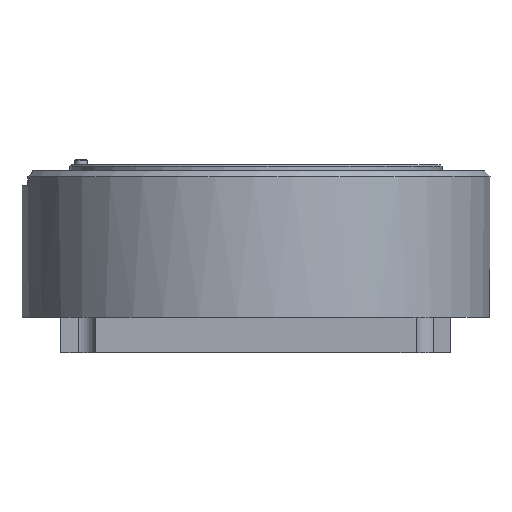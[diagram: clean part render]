
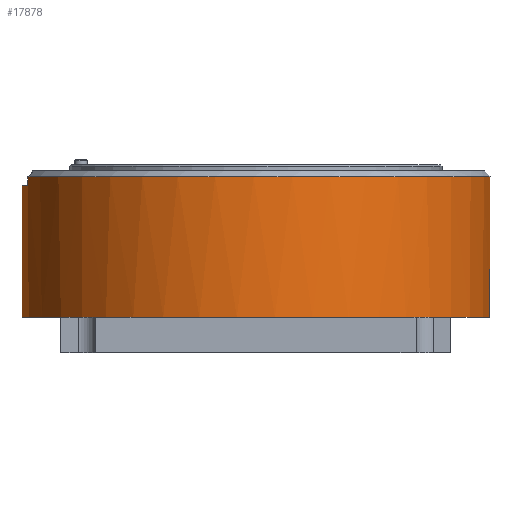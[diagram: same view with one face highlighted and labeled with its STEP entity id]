
A CAD part, front view. The second image highlights one B-rep face of the part: STEP entity #17878.
In plain terms, the highlighted cylindrical face has radius 40 mm (diameter 80 mm), a full revolution.
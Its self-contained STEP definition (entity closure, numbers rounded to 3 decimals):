
#745 = CIRCLE ( 'NONE', #3639, 40. ) ;
#926 = VERTEX_POINT ( 'NONE', #4344 ) ;
#1036 = DIRECTION ( 'NONE',  ( 0., 0., -1. ) ) ;
#1301 = VERTEX_POINT ( 'NONE', #16245 ) ;
#1374 = AXIS2_PLACEMENT_3D ( 'NONE', #25631, #16955, #14673 ) ;
#1781 = AXIS2_PLACEMENT_3D ( 'NONE', #18700, #16476, #27837 ) ;
#2008 = CARTESIAN_POINT ( 'NONE',  ( 38.855, -9.502, 28.476 ) ) ;
#2104 = ORIENTED_EDGE ( 'NONE', *, *, #4818, .F. ) ;
#2291 = ORIENTED_EDGE ( 'NONE', *, *, #6375, .F. ) ;
#2597 = CARTESIAN_POINT ( 'NONE',  ( -33.25, 22.236, 6. ) ) ;
#2922 = CARTESIAN_POINT ( 'NONE',  ( 0., 0., 6. ) ) ;
#3109 = EDGE_LOOP ( 'NONE', ( #6749, #9817, #16695, #21464 ) ) ;
#3447 = DIRECTION ( 'NONE',  ( 0., 0., -1. ) ) ;
#3639 = AXIS2_PLACEMENT_3D ( 'NONE', #2922, #18917, #28064 ) ;
#3838 = EDGE_CURVE ( 'NONE', #10904, #4276, #4189, .T. ) ;
#3942 = ORIENTED_EDGE ( 'NONE', *, *, #18913, .F. ) ;
#4189 = CIRCLE ( 'NONE', #1781, 40. ) ;
#4276 = VERTEX_POINT ( 'NONE', #21935 ) ;
#4344 = CARTESIAN_POINT ( 'NONE',  ( -33.25, -22.236, 6. ) ) ;
#4707 = DIRECTION ( 'NONE',  ( -1., 0., 0. ) ) ;
#4818 = EDGE_CURVE ( 'NONE', #926, #21718, #24495, .T. ) ;
#4828 = AXIS2_PLACEMENT_3D ( 'NONE', #29636, #26946, #15843 ) ;
#5453 = VERTEX_POINT ( 'NONE', #2008 ) ;
#5612 = FACE_OUTER_BOUND ( 'NONE', #3109, .T. ) ;
#5617 = CIRCLE ( 'NONE', #18625, 40. ) ;
#5651 = ORIENTED_EDGE ( 'NONE', *, *, #11163, .F. ) ;
#6375 = EDGE_CURVE ( 'NONE', #29778, #9171, #11601, .T. ) ;
#6533 = EDGE_CURVE ( 'NONE', #9171, #25059, #7251, .T. ) ;
#6580 = AXIS2_PLACEMENT_3D ( 'NONE', #28602, #1036, #24128 ) ;
#6749 = ORIENTED_EDGE ( 'NONE', *, *, #19145, .F. ) ;
#6960 = DIRECTION ( 'NONE',  ( 1., 0., 0. ) ) ;
#7251 = CIRCLE ( 'NONE', #4828, 40. ) ;
#7543 = DIRECTION ( 'NONE',  ( 0., 0., -1. ) ) ;
#7775 = LINE ( 'NONE', #18940, #23280 ) ;
#8206 = DIRECTION ( 'NONE',  ( -1., 0., 0. ) ) ;
#8341 = FACE_OUTER_BOUND ( 'NONE', #24953, .T. ) ;
#8842 = CARTESIAN_POINT ( 'NONE',  ( -15.794, -36.75, 6. ) ) ;
#9171 = VERTEX_POINT ( 'NONE', #25964 ) ;
#9369 = AXIS2_PLACEMENT_3D ( 'NONE', #10399, #7543, #10263 ) ;
#9783 = LINE ( 'NONE', #21229, #26241 ) ;
#9817 = ORIENTED_EDGE ( 'NONE', *, *, #28878, .T. ) ;
#10146 = AXIS2_PLACEMENT_3D ( 'NONE', #14167, #16085, #29570 ) ;
#10161 = CYLINDRICAL_SURFACE ( 'NONE', #21175, 40. ) ;
#10190 = CARTESIAN_POINT ( 'NONE',  ( 38.855, -9.502, 29.965 ) ) ;
#10214 = ORIENTED_EDGE ( 'NONE', *, *, #25271, .F. ) ;
#10263 = DIRECTION ( 'NONE',  ( -1., 0., 0. ) ) ;
#10399 = CARTESIAN_POINT ( 'NONE',  ( 0., 0., 6. ) ) ;
#10904 = VERTEX_POINT ( 'NONE', #10190 ) ;
#11163 = EDGE_CURVE ( 'NONE', #11318, #29778, #5617, .T. ) ;
#11318 = VERTEX_POINT ( 'NONE', #15690 ) ;
#11601 = CIRCLE ( 'NONE', #10146, 40. ) ;
#12262 = CIRCLE ( 'NONE', #9369, 40. ) ;
#12424 = CARTESIAN_POINT ( 'NONE',  ( 38.855, 9.502, 28.476 ) ) ;
#14167 = CARTESIAN_POINT ( 'NONE',  ( 0., 0., 6. ) ) ;
#14214 = CARTESIAN_POINT ( 'NONE',  ( 15.794, -36.75, 6. ) ) ;
#14673 = DIRECTION ( 'NONE',  ( -1., 0., 0. ) ) ;
#14790 = CARTESIAN_POINT ( 'NONE',  ( 0., 0., 6. ) ) ;
#14848 = CARTESIAN_POINT ( 'NONE',  ( 0., 0., 6. ) ) ;
#15690 = CARTESIAN_POINT ( 'NONE',  ( 15.794, 36.75, 6. ) ) ;
#15843 = DIRECTION ( 'NONE',  ( -1., 0., 0. ) ) ;
#16085 = DIRECTION ( 'NONE',  ( 0., 0., -1. ) ) ;
#16245 = CARTESIAN_POINT ( 'NONE',  ( -15.794, 36.75, 6. ) ) ;
#16476 = DIRECTION ( 'NONE',  ( 0., 0., -1. ) ) ;
#16695 = ORIENTED_EDGE ( 'NONE', *, *, #3838, .T. ) ;
#16855 = CARTESIAN_POINT ( 'NONE',  ( 33.25, 22.236, 6. ) ) ;
#16955 = DIRECTION ( 'NONE',  ( 0., 0., -1. ) ) ;
#16993 = DIRECTION ( 'NONE',  ( 0., 0., 1. ) ) ;
#17875 = VERTEX_POINT ( 'NONE', #12424 ) ;
#17878 = ADVANCED_FACE ( 'NONE', ( #5612, #8341 ), #10161, .T. ) ;
#18625 = AXIS2_PLACEMENT_3D ( 'NONE', #14790, #3447, #4707 ) ;
#18700 = CARTESIAN_POINT ( 'NONE',  ( 0., 0., 29.965 ) ) ;
#18913 = EDGE_CURVE ( 'NONE', #25059, #29613, #745, .T. ) ;
#18917 = DIRECTION ( 'NONE',  ( 0., 0., -1. ) ) ;
#18940 = CARTESIAN_POINT ( 'NONE',  ( 38.855, -9.502, 29.721 ) ) ;
#19128 = CIRCLE ( 'NONE', #6580, 40. ) ;
#19145 = EDGE_CURVE ( 'NONE', #5453, #17875, #20512, .T. ) ;
#19256 = EDGE_CURVE ( 'NONE', #29613, #926, #19128, .T. ) ;
#19278 = ORIENTED_EDGE ( 'NONE', *, *, #19256, .F. ) ;
#19940 = EDGE_CURVE ( 'NONE', #4276, #17875, #9783, .T. ) ;
#20512 = CIRCLE ( 'NONE', #28669, 40. ) ;
#20862 = CARTESIAN_POINT ( 'NONE',  ( 0., 0., 28.476 ) ) ;
#21175 = AXIS2_PLACEMENT_3D ( 'NONE', #24003, #26378, #21758 ) ;
#21229 = CARTESIAN_POINT ( 'NONE',  ( 38.855, 9.502, 29.721 ) ) ;
#21464 = ORIENTED_EDGE ( 'NONE', *, *, #19940, .T. ) ;
#21718 = VERTEX_POINT ( 'NONE', #2597 ) ;
#21758 = DIRECTION ( 'NONE',  ( -1., 0., 0. ) ) ;
#21935 = CARTESIAN_POINT ( 'NONE',  ( 38.855, 9.502, 29.965 ) ) ;
#22711 = CIRCLE ( 'NONE', #26516, 40. ) ;
#23280 = VECTOR ( 'NONE', #16993, 1000. ) ;
#23769 = DIRECTION ( 'NONE',  ( 0., 0., -1. ) ) ;
#24003 = CARTESIAN_POINT ( 'NONE',  ( 0., 0., 0. ) ) ;
#24128 = DIRECTION ( 'NONE',  ( -1., 0., 0. ) ) ;
#24273 = ORIENTED_EDGE ( 'NONE', *, *, #26917, .F. ) ;
#24495 = CIRCLE ( 'NONE', #1374, 40. ) ;
#24953 = EDGE_LOOP ( 'NONE', ( #24273, #2104, #19278, #3942, #28504, #2291, #5651, #10214 ) ) ;
#25059 = VERTEX_POINT ( 'NONE', #14214 ) ;
#25271 = EDGE_CURVE ( 'NONE', #1301, #11318, #22711, .T. ) ;
#25623 = DIRECTION ( 'NONE',  ( 0., 0., 1. ) ) ;
#25631 = CARTESIAN_POINT ( 'NONE',  ( 0., 0., 6. ) ) ;
#25964 = CARTESIAN_POINT ( 'NONE',  ( 33.25, -22.236, 6. ) ) ;
#26241 = VECTOR ( 'NONE', #23769, 1000. ) ;
#26378 = DIRECTION ( 'NONE',  ( 0., 0., -1. ) ) ;
#26516 = AXIS2_PLACEMENT_3D ( 'NONE', #14848, #28643, #8206 ) ;
#26917 = EDGE_CURVE ( 'NONE', #21718, #1301, #12262, .T. ) ;
#26946 = DIRECTION ( 'NONE',  ( 0., 0., -1. ) ) ;
#27837 = DIRECTION ( 'NONE',  ( -1., 0., 0. ) ) ;
#28064 = DIRECTION ( 'NONE',  ( -1., 0., 0. ) ) ;
#28504 = ORIENTED_EDGE ( 'NONE', *, *, #6533, .F. ) ;
#28602 = CARTESIAN_POINT ( 'NONE',  ( 0., 0., 6. ) ) ;
#28643 = DIRECTION ( 'NONE',  ( 0., 0., -1. ) ) ;
#28669 = AXIS2_PLACEMENT_3D ( 'NONE', #20862, #25623, #6960 ) ;
#28878 = EDGE_CURVE ( 'NONE', #5453, #10904, #7775, .T. ) ;
#29570 = DIRECTION ( 'NONE',  ( -1., 0., 0. ) ) ;
#29613 = VERTEX_POINT ( 'NONE', #8842 ) ;
#29636 = CARTESIAN_POINT ( 'NONE',  ( 0., 0., 6. ) ) ;
#29778 = VERTEX_POINT ( 'NONE', #16855 ) ;
